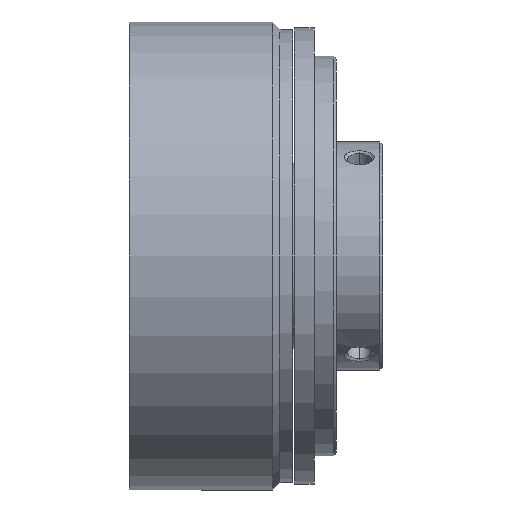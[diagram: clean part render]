
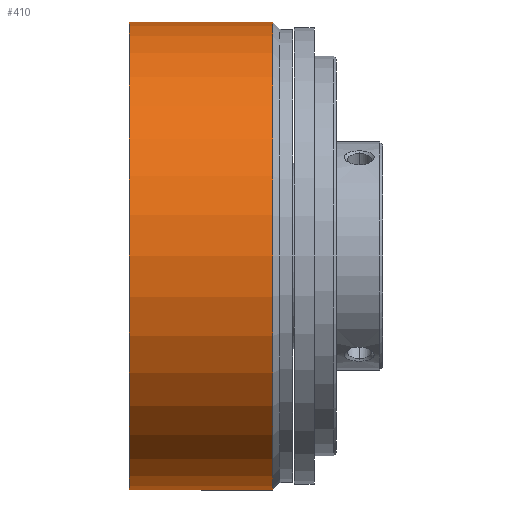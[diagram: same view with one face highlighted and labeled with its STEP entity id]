
A CAD part, front view. The second image highlights one B-rep face of the part: STEP entity #410.
In plain terms, the highlighted cylindrical face has radius 41 mm (diameter 82 mm), a partial arc.
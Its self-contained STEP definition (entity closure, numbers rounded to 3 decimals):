
#41 = AXIS2_PLACEMENT_3D ( 'NONE', #229, #3020, #2089 ) ;
#191 = LINE ( 'NONE', #3391, #943 ) ;
#207 = VERTEX_POINT ( 'NONE', #3284 ) ;
#229 = CARTESIAN_POINT ( 'NONE',  ( 25.1, 0., 0. ) ) ;
#282 = DIRECTION ( 'NONE',  ( -1., 0., 0. ) ) ;
#288 = FACE_OUTER_BOUND ( 'NONE', #1786, .T. ) ;
#410 = ADVANCED_FACE ( 'NONE', ( #288 ), #1342, .T. ) ;
#503 = EDGE_CURVE ( 'NONE', #207, #2657, #191, .T. ) ;
#564 = DIRECTION ( 'NONE',  ( 0., 0., 1. ) ) ;
#624 = ORIENTED_EDGE ( 'NONE', *, *, #3169, .F. ) ;
#711 = CARTESIAN_POINT ( 'NONE',  ( 25.1, 0., -41. ) ) ;
#793 = ORIENTED_EDGE ( 'NONE', *, *, #920, .F. ) ;
#920 = EDGE_CURVE ( 'NONE', #1460, #2657, #2530, .T. ) ;
#939 = CIRCLE ( 'NONE', #41, 41. ) ;
#943 = VECTOR ( 'NONE', #1865, 1000. ) ;
#990 = DIRECTION ( 'NONE',  ( -1., 0., 0. ) ) ;
#1033 = DIRECTION ( 'NONE',  ( 0., 0., 1. ) ) ;
#1039 = ORIENTED_EDGE ( 'NONE', *, *, #503, .T. ) ;
#1094 = CARTESIAN_POINT ( 'NONE',  ( 0., 0., -41. ) ) ;
#1168 = CARTESIAN_POINT ( 'NONE',  ( 0., 0., 0. ) ) ;
#1342 = CYLINDRICAL_SURFACE ( 'NONE', #2799, 41. ) ;
#1460 = VERTEX_POINT ( 'NONE', #1094 ) ;
#1786 = EDGE_LOOP ( 'NONE', ( #624, #3603, #1039, #793 ) ) ;
#1791 = CARTESIAN_POINT ( 'NONE',  ( 0., 0., 0. ) ) ;
#1865 = DIRECTION ( 'NONE',  ( -1., 0., 0. ) ) ;
#2089 = DIRECTION ( 'NONE',  ( 0., 0., 1. ) ) ;
#2127 = CARTESIAN_POINT ( 'NONE',  ( 0., 0., -41. ) ) ;
#2530 = CIRCLE ( 'NONE', #2973, 41. ) ;
#2657 = VERTEX_POINT ( 'NONE', #2978 ) ;
#2799 = AXIS2_PLACEMENT_3D ( 'NONE', #1168, #2874, #564 ) ;
#2874 = DIRECTION ( 'NONE',  ( -1., 0., 0. ) ) ;
#2973 = AXIS2_PLACEMENT_3D ( 'NONE', #1791, #990, #1033 ) ;
#2978 = CARTESIAN_POINT ( 'NONE',  ( 0., 0., 41. ) ) ;
#3020 = DIRECTION ( 'NONE',  ( -1., 0., 0. ) ) ;
#3053 = LINE ( 'NONE', #2127, #3655 ) ;
#3169 = EDGE_CURVE ( 'NONE', #3370, #1460, #3053, .T. ) ;
#3242 = EDGE_CURVE ( 'NONE', #3370, #207, #939, .T. ) ;
#3284 = CARTESIAN_POINT ( 'NONE',  ( 25.1, 0., 41. ) ) ;
#3370 = VERTEX_POINT ( 'NONE', #711 ) ;
#3391 = CARTESIAN_POINT ( 'NONE',  ( 0., 0., 41. ) ) ;
#3603 = ORIENTED_EDGE ( 'NONE', *, *, #3242, .T. ) ;
#3655 = VECTOR ( 'NONE', #282, 1000. ) ;
